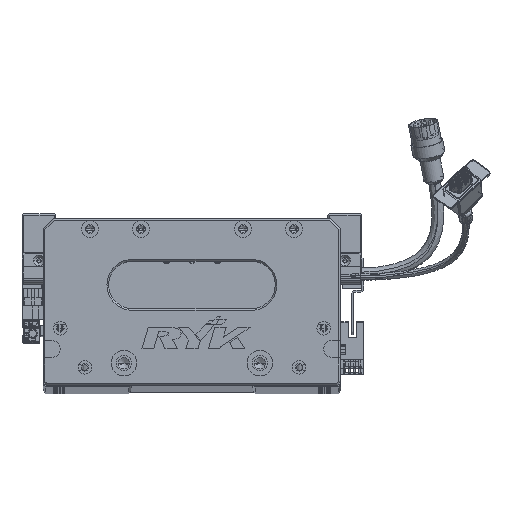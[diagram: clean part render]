
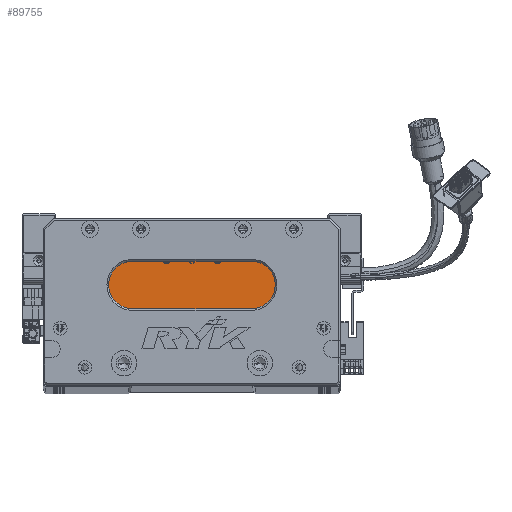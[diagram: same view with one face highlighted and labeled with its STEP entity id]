
A CAD part, top view. The second image highlights one B-rep face of the part: STEP entity #89755.
In plain terms, the highlighted planar face has unit normal (0, 0, 1) as drawn and (0, 0, -1) by its records, which use the part's own axes.
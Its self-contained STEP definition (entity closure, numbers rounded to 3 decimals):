
#198 = EDGE_CURVE ( 'NONE', #117992, #44925, #83279, .T. ) ;
#1568 = DIRECTION ( 'NONE',  ( -1., 0., 0. ) ) ;
#2675 = CARTESIAN_POINT ( 'NONE',  ( 52.5, 59., 18. ) ) ;
#3112 = CARTESIAN_POINT ( 'NONE',  ( 122.5, 45., 18. ) ) ;
#3695 = CARTESIAN_POINT ( 'NONE',  ( 122.5, 59., 18. ) ) ;
#9263 = EDGE_CURVE ( 'NONE', #90514, #30634, #94298, .T. ) ;
#21497 = DIRECTION ( 'NONE',  ( -1., 0., 0. ) ) ;
#21554 = AXIS2_PLACEMENT_3D ( 'NONE', #3695, #50824, #51637 ) ;
#23036 = EDGE_CURVE ( 'NONE', #30634, #56093, #40350, .T. ) ;
#30634 = VERTEX_POINT ( 'NONE', #59995 ) ;
#35259 = CARTESIAN_POINT ( 'NONE',  ( 122.5, 73., 18. ) ) ;
#35421 = PLANE ( 'NONE',  #56611 ) ;
#35838 = DIRECTION ( 'NONE',  ( 0., 0., -1. ) ) ;
#36713 = CIRCLE ( 'NONE', #21554, 14. ) ;
#37119 = ORIENTED_EDGE ( 'NONE', *, *, #198, .T. ) ;
#39783 = EDGE_LOOP ( 'NONE', ( #40728, #37119, #45704, #45611, #50701 ) ) ;
#40105 = CARTESIAN_POINT ( 'NONE',  ( 52.5, 45., 18. ) ) ;
#40350 = LINE ( 'NONE', #74571, #84372 ) ;
#40728 = ORIENTED_EDGE ( 'NONE', *, *, #83601, .T. ) ;
#44925 = VERTEX_POINT ( 'NONE', #40105 ) ;
#45611 = ORIENTED_EDGE ( 'NONE', *, *, #9263, .T. ) ;
#45704 = ORIENTED_EDGE ( 'NONE', *, *, #54466, .T. ) ;
#50701 = ORIENTED_EDGE ( 'NONE', *, *, #23036, .T. ) ;
#50824 = DIRECTION ( 'NONE',  ( 0., 0., -1. ) ) ;
#51637 = DIRECTION ( 'NONE',  ( -1., 0., 0. ) ) ;
#54466 = EDGE_CURVE ( 'NONE', #44925, #90514, #92395, .T. ) ;
#56093 = VERTEX_POINT ( 'NONE', #35259 ) ;
#56103 = DIRECTION ( 'NONE',  ( 1., 0., 0. ) ) ;
#56611 = AXIS2_PLACEMENT_3D ( 'NONE', #73186, #35838, #101492 ) ;
#57762 = DIRECTION ( 'NONE',  ( 0., 0., -1. ) ) ;
#58162 = CARTESIAN_POINT ( 'NONE',  ( 52.5, 59., 18. ) ) ;
#59995 = CARTESIAN_POINT ( 'NONE',  ( 52.5, 73., 18. ) ) ;
#68728 = DIRECTION ( 'NONE',  ( 0., 0., -1. ) ) ;
#72169 = FACE_OUTER_BOUND ( 'NONE', #39783, .T. ) ;
#73186 = CARTESIAN_POINT ( 'NONE',  ( 122.5, 59., 18. ) ) ;
#74571 = CARTESIAN_POINT ( 'NONE',  ( 122.5, 73., 18. ) ) ;
#83279 = LINE ( 'NONE', #89676, #118640 ) ;
#83601 = EDGE_CURVE ( 'NONE', #56093, #117992, #36713, .T. ) ;
#84372 = VECTOR ( 'NONE', #56103, 1000. ) ;
#89676 = CARTESIAN_POINT ( 'NONE',  ( 122.5, 45., 18. ) ) ;
#89755 = ADVANCED_FACE ( 'NONE', ( #72169 ), #35421, .T. ) ;
#90514 = VERTEX_POINT ( 'NONE', #110711 ) ;
#92395 = CIRCLE ( 'NONE', #108681, 14. ) ;
#94298 = CIRCLE ( 'NONE', #111641, 14. ) ;
#99150 = DIRECTION ( 'NONE',  ( -1., 0., 0. ) ) ;
#101492 = DIRECTION ( 'NONE',  ( -1., 0., 0. ) ) ;
#108681 = AXIS2_PLACEMENT_3D ( 'NONE', #58162, #57762, #1568 ) ;
#110711 = CARTESIAN_POINT ( 'NONE',  ( 38.5, 59., 18. ) ) ;
#111641 = AXIS2_PLACEMENT_3D ( 'NONE', #2675, #68728, #21497 ) ;
#117992 = VERTEX_POINT ( 'NONE', #3112 ) ;
#118640 = VECTOR ( 'NONE', #99150, 1000. ) ;
